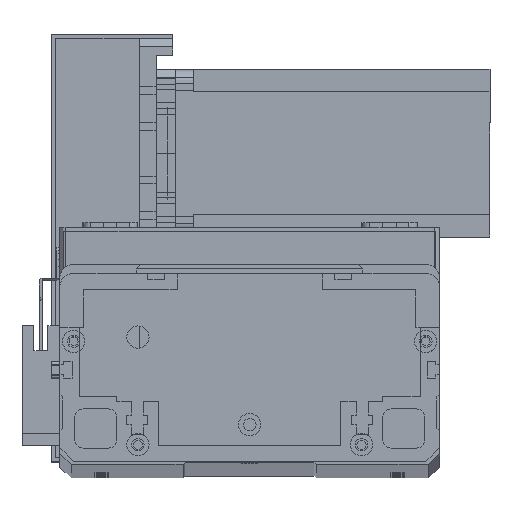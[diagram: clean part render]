
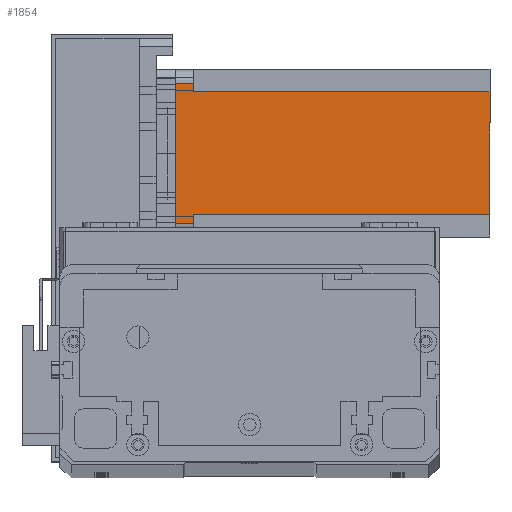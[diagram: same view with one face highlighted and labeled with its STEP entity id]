
A CAD part, top view. The second image highlights one B-rep face of the part: STEP entity #1854.
In plain terms, the highlighted planar face has unit normal (0, 0, 1) as drawn and (0, -1, 0) by its records, which use the part's own axes.
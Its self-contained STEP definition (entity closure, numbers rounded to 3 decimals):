
#822 = LINE ( 'NONE', #1184, #8048 ) ;
#1018 = EDGE_LOOP ( 'NONE', ( #28491, #10002, #3901, #23572, #28543, #6633, #11255, #22129 ) ) ;
#1184 = CARTESIAN_POINT ( 'NONE',  ( 8., 0., -6.5 ) ) ;
#1854 = ADVANCED_FACE ( 'NONE', ( #10515 ), #17948, .T. ) ;
#1940 = DIRECTION ( 'NONE',  ( 0., 0., 1. ) ) ;
#3901 = ORIENTED_EDGE ( 'NONE', *, *, #4898, .F. ) ;
#4315 = CARTESIAN_POINT ( 'NONE',  ( 8., 0., -6.5 ) ) ;
#4898 = EDGE_CURVE ( 'NONE', #5836, #5870, #30574, .T. ) ;
#4914 = VECTOR ( 'NONE', #22710, 1000. ) ;
#5359 = VECTOR ( 'NONE', #26985, 1000. ) ;
#5583 = CARTESIAN_POINT ( 'NONE',  ( 8., 0., -112.5 ) ) ;
#5836 = VERTEX_POINT ( 'NONE', #13556 ) ;
#5870 = VERTEX_POINT ( 'NONE', #8415 ) ;
#6563 = CARTESIAN_POINT ( 'NONE',  ( 5., 0., -112.5 ) ) ;
#6633 = ORIENTED_EDGE ( 'NONE', *, *, #14075, .F. ) ;
#7637 = VECTOR ( 'NONE', #1940, 1000. ) ;
#8048 = VECTOR ( 'NONE', #12560, 1000. ) ;
#8415 = CARTESIAN_POINT ( 'NONE',  ( 55., 0., 0. ) ) ;
#9124 = DIRECTION ( 'NONE',  ( 1., 0., 0. ) ) ;
#9266 = VERTEX_POINT ( 'NONE', #4315 ) ;
#10002 = ORIENTED_EDGE ( 'NONE', *, *, #12973, .T. ) ;
#10515 = FACE_OUTER_BOUND ( 'NONE', #1018, .T. ) ;
#10529 = CARTESIAN_POINT ( 'NONE',  ( 55., 0., -112.5 ) ) ;
#11255 = ORIENTED_EDGE ( 'NONE', *, *, #14243, .T. ) ;
#11434 = LINE ( 'NONE', #23072, #4914 ) ;
#11504 = VECTOR ( 'NONE', #14357, 1000. ) ;
#11720 = CARTESIAN_POINT ( 'NONE',  ( 52., 0., -6.5 ) ) ;
#12249 = LINE ( 'NONE', #12777, #30281 ) ;
#12414 = DIRECTION ( 'NONE',  ( 1., 0., 0. ) ) ;
#12560 = DIRECTION ( 'NONE',  ( -1., 0., 0. ) ) ;
#12620 = EDGE_CURVE ( 'NONE', #20672, #16916, #12249, .T. ) ;
#12777 = CARTESIAN_POINT ( 'NONE',  ( 52., 0., -6.5 ) ) ;
#12973 = EDGE_CURVE ( 'NONE', #16916, #5870, #28496, .T. ) ;
#13159 = EDGE_CURVE ( 'NONE', #5836, #30852, #30259, .T. ) ;
#13437 = EDGE_CURVE ( 'NONE', #9266, #30852, #822, .T. ) ;
#13556 = CARTESIAN_POINT ( 'NONE',  ( 5., 0., 0. ) ) ;
#13877 = AXIS2_PLACEMENT_3D ( 'NONE', #20127, #17900, #17870 ) ;
#14072 = LINE ( 'NONE', #5583, #7637 ) ;
#14075 = EDGE_CURVE ( 'NONE', #19113, #9266, #14072, .T. ) ;
#14243 = EDGE_CURVE ( 'NONE', #19113, #14592, #18967, .T. ) ;
#14357 = DIRECTION ( 'NONE',  ( 0., 0., -1. ) ) ;
#14462 = EDGE_CURVE ( 'NONE', #20672, #14592, #11434, .T. ) ;
#14592 = VERTEX_POINT ( 'NONE', #19613 ) ;
#15307 = CARTESIAN_POINT ( 'NONE',  ( 8., 0., -112.5 ) ) ;
#15520 = DIRECTION ( 'NONE',  ( 0., 0., 1. ) ) ;
#16024 = VECTOR ( 'NONE', #15520, 1000. ) ;
#16286 = CARTESIAN_POINT ( 'NONE',  ( 55., 0., -6.5 ) ) ;
#16674 = VECTOR ( 'NONE', #9124, 1000. ) ;
#16916 = VERTEX_POINT ( 'NONE', #16286 ) ;
#17870 = DIRECTION ( 'NONE',  ( 0., 0., -1. ) ) ;
#17900 = DIRECTION ( 'NONE',  ( 0., -1., 0. ) ) ;
#17948 = PLANE ( 'NONE',  #13877 ) ;
#18967 = LINE ( 'NONE', #29389, #16674 ) ;
#19113 = VERTEX_POINT ( 'NONE', #15307 ) ;
#19613 = CARTESIAN_POINT ( 'NONE',  ( 52., 0., -112.5 ) ) ;
#20127 = CARTESIAN_POINT ( 'NONE',  ( 0., 0., -112.5 ) ) ;
#20672 = VERTEX_POINT ( 'NONE', #11720 ) ;
#22129 = ORIENTED_EDGE ( 'NONE', *, *, #14462, .F. ) ;
#22439 = CARTESIAN_POINT ( 'NONE',  ( 0., 0., 0. ) ) ;
#22710 = DIRECTION ( 'NONE',  ( 0., 0., -1. ) ) ;
#23072 = CARTESIAN_POINT ( 'NONE',  ( 52., 0., -112.5 ) ) ;
#23572 = ORIENTED_EDGE ( 'NONE', *, *, #13159, .T. ) ;
#24317 = CARTESIAN_POINT ( 'NONE',  ( 5., 0., -6.5 ) ) ;
#26985 = DIRECTION ( 'NONE',  ( 1., 0., 0. ) ) ;
#28491 = ORIENTED_EDGE ( 'NONE', *, *, #12620, .T. ) ;
#28496 = LINE ( 'NONE', #10529, #16024 ) ;
#28543 = ORIENTED_EDGE ( 'NONE', *, *, #13437, .F. ) ;
#29389 = CARTESIAN_POINT ( 'NONE',  ( 0., 0., -112.5 ) ) ;
#30259 = LINE ( 'NONE', #6563, #11504 ) ;
#30281 = VECTOR ( 'NONE', #12414, 1000. ) ;
#30574 = LINE ( 'NONE', #22439, #5359 ) ;
#30852 = VERTEX_POINT ( 'NONE', #24317 ) ;
